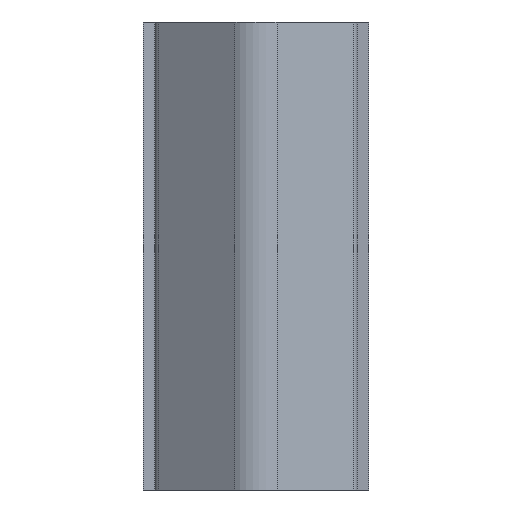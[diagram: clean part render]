
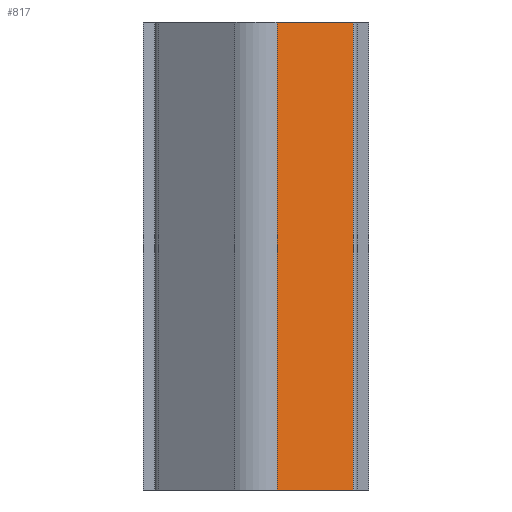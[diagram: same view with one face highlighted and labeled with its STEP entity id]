
A CAD part, front view. The second image highlights one B-rep face of the part: STEP entity #817.
In plain terms, the highlighted planar face has unit normal (0.574, -0.819, 0).
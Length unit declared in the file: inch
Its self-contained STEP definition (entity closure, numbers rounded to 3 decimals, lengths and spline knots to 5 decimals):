
#759=CARTESIAN_POINT('',(0.20814,-0.21792,1.0));
#760=VERTEX_POINT('',#759);
#768=CARTESIAN_POINT('',(0.20814,-0.21792,0.0));
#769=VERTEX_POINT('',#768);
#770=CARTESIAN_POINT('',(0.20814,-0.21792,0.0));
#771=DIRECTION('',(0.0,0.0,1.0));
#772=VECTOR('',#771,1.0);
#773=LINE('',#770,#772);
#774=EDGE_CURVE('',#769,#760,#773,.T.);
#787=CARTESIAN_POINT('',(0.20814,-0.21792,0.0));
#788=DIRECTION('',(0.574,-0.819,0.0));
#789=DIRECTION('',(0.0,0.0,-1.0));
#790=AXIS2_PLACEMENT_3D('',#787,#788,#789);
#791=PLANE('',#790);
#792=CARTESIAN_POINT('',(0.04516,-0.33204,1.0));
#793=VERTEX_POINT('',#792);
#794=CARTESIAN_POINT('',(0.20814,-0.21792,1.0));
#795=DIRECTION('',(-0.819,-0.574,0.0));
#796=VECTOR('',#795,0.19896);
#797=LINE('',#794,#796);
#798=EDGE_CURVE('',#760,#793,#797,.T.);
#799=ORIENTED_EDGE('',*,*,#798,.T.);
#800=CARTESIAN_POINT('',(0.04516,-0.33204,0.0));
#801=VERTEX_POINT('',#800);
#802=CARTESIAN_POINT('',(0.04516,-0.33204,0.0));
#803=DIRECTION('',(0.0,0.0,1.0));
#804=VECTOR('',#803,1.0);
#805=LINE('',#802,#804);
#806=EDGE_CURVE('',#801,#793,#805,.T.);
#807=ORIENTED_EDGE('',*,*,#806,.F.);
#808=CARTESIAN_POINT('',(0.04516,-0.33204,0.0));
#809=DIRECTION('',(0.819,0.574,0.0));
#810=VECTOR('',#809,0.19896);
#811=LINE('',#808,#810);
#812=EDGE_CURVE('',#801,#769,#811,.T.);
#813=ORIENTED_EDGE('',*,*,#812,.T.);
#814=ORIENTED_EDGE('',*,*,#774,.T.);
#815=EDGE_LOOP('',(#799,#807,#813,#814));
#816=FACE_OUTER_BOUND('',#815,.T.);
#817=ADVANCED_FACE('',(#816),#791,.T.);
